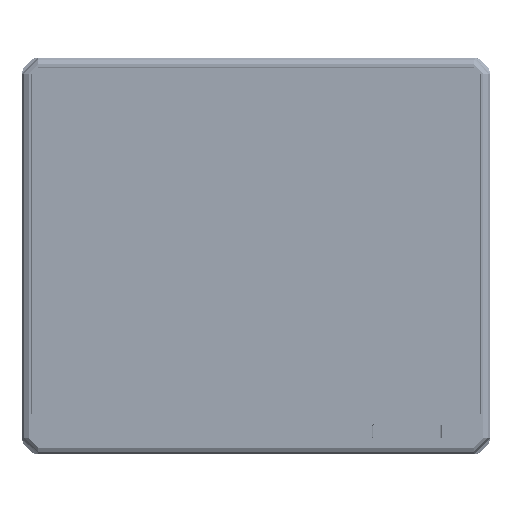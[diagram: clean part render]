
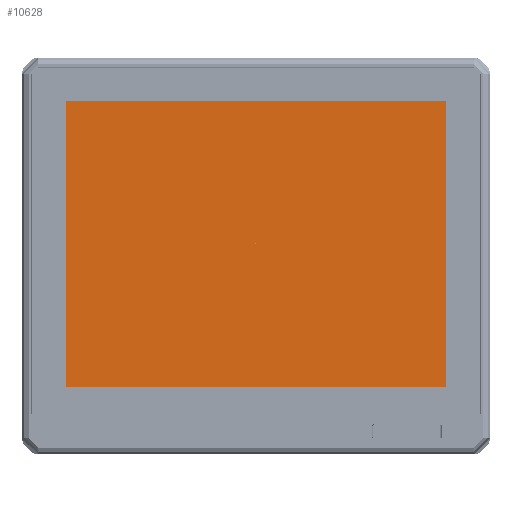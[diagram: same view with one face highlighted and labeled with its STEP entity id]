
A CAD part, top view. The second image highlights one B-rep face of the part: STEP entity #10628.
In plain terms, the highlighted planar face has unit normal (0, 0, 1).
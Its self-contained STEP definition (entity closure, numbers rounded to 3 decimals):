
#5488 = CARTESIAN_POINT ( 'NONE',  ( -193.294, -96.131, 9.95 ) ) ;
#10628 = ADVANCED_FACE ( 'NONE', ( #709348, #85550 ), #232254, .T. ) ;
#12177 = CARTESIAN_POINT ( 'NONE',  ( -69.294, -2.381, 9.95 ) ) ;
#35817 = VECTOR ( 'NONE', #516972, 1000. ) ;
#38887 = CARTESIAN_POINT ( 'NONE',  ( -193.294, 90.369, 9.95 ) ) ;
#85550 = FACE_BOUND ( 'NONE', #667589, .T. ) ;
#90976 = LINE ( 'NONE', #209388, #676836 ) ;
#105984 = CIRCLE ( 'NONE', #708736, 0.5 ) ;
#128425 = VECTOR ( 'NONE', #178071, 1000. ) ;
#136815 = VERTEX_POINT ( 'NONE', #12177 ) ;
#167982 = DIRECTION ( 'NONE',  ( 0., -1., 0. ) ) ;
#171434 = DIRECTION ( 'NONE',  ( 0., 0., 1. ) ) ;
#172978 = ORIENTED_EDGE ( 'NONE', *, *, #398359, .T. ) ;
#173470 = CARTESIAN_POINT ( 'NONE',  ( -69.294, -3.381, 9.95 ) ) ;
#175601 = DIRECTION ( 'NONE',  ( 0., 0., 1. ) ) ;
#178071 = DIRECTION ( 'NONE',  ( 1., 0., 0. ) ) ;
#179961 = DIRECTION ( 'NONE',  ( 0., -1., 0. ) ) ;
#186194 = CIRCLE ( 'NONE', #783991, 0.5 ) ;
#209388 = CARTESIAN_POINT ( 'NONE',  ( 54.706, 90.369, 9.95 ) ) ;
#215471 = LINE ( 'NONE', #38887, #35817 ) ;
#232254 = PLANE ( 'NONE',  #675256 ) ;
#236475 = DIRECTION ( 'NONE',  ( 0., -1., 0. ) ) ;
#242191 = EDGE_CURVE ( 'NONE', #317612, #541690, #648340, .T. ) ;
#299390 = EDGE_CURVE ( 'NONE', #308933, #136815, #186194, .T. ) ;
#308933 = VERTEX_POINT ( 'NONE', #173470 ) ;
#317612 = VERTEX_POINT ( 'NONE', #5488 ) ;
#329325 = ORIENTED_EDGE ( 'NONE', *, *, #584281, .F. ) ;
#336110 = DIRECTION ( 'NONE',  ( 0., 1., 0. ) ) ;
#346677 = EDGE_CURVE ( 'NONE', #405416, #384126, #215471, .T. ) ;
#365551 = CARTESIAN_POINT ( 'NONE',  ( -193.294, -96.131, 9.95 ) ) ;
#384126 = VERTEX_POINT ( 'NONE', #484819 ) ;
#398359 = EDGE_CURVE ( 'NONE', #384126, #317612, #676339, .T. ) ;
#405416 = VERTEX_POINT ( 'NONE', #499715 ) ;
#422334 = CARTESIAN_POINT ( 'NONE',  ( 54.706, -96.131, 9.95 ) ) ;
#482144 = ORIENTED_EDGE ( 'NONE', *, *, #242191, .T. ) ;
#484819 = CARTESIAN_POINT ( 'NONE',  ( -193.294, 90.369, 9.95 ) ) ;
#499715 = CARTESIAN_POINT ( 'NONE',  ( 54.706, 90.369, 9.95 ) ) ;
#516972 = DIRECTION ( 'NONE',  ( -1., 0., 0. ) ) ;
#535844 = DIRECTION ( 'NONE',  ( 0., -1., 0. ) ) ;
#537449 = CARTESIAN_POINT ( 'NONE',  ( -69.294, -2.881, 9.95 ) ) ;
#541690 = VERTEX_POINT ( 'NONE', #422334 ) ;
#541788 = CARTESIAN_POINT ( 'NONE',  ( -69.294, -2.881, 9.95 ) ) ;
#549648 = DIRECTION ( 'NONE',  ( 0., 0., 1. ) ) ;
#583684 = ORIENTED_EDGE ( 'NONE', *, *, #299390, .F. ) ;
#584281 = EDGE_CURVE ( 'NONE', #136815, #308933, #105984, .T. ) ;
#595816 = CARTESIAN_POINT ( 'NONE',  ( -193.294, 90.369, 9.95 ) ) ;
#610978 = ORIENTED_EDGE ( 'NONE', *, *, #692726, .T. ) ;
#648340 = LINE ( 'NONE', #365551, #128425 ) ;
#657419 = VECTOR ( 'NONE', #167982, 1000. ) ;
#667589 = EDGE_LOOP ( 'NONE', ( #329325, #583684 ) ) ;
#675256 = AXIS2_PLACEMENT_3D ( 'NONE', #773798, #171434, #535844 ) ;
#676339 = LINE ( 'NONE', #595816, #657419 ) ;
#676836 = VECTOR ( 'NONE', #336110, 1000. ) ;
#692726 = EDGE_CURVE ( 'NONE', #541690, #405416, #90976, .T. ) ;
#708736 = AXIS2_PLACEMENT_3D ( 'NONE', #537449, #175601, #236475 ) ;
#709348 = FACE_OUTER_BOUND ( 'NONE', #779758, .T. ) ;
#750694 = ORIENTED_EDGE ( 'NONE', *, *, #346677, .T. ) ;
#773798 = CARTESIAN_POINT ( 'NONE',  ( -211.794, -113.881, 9.95 ) ) ;
#779758 = EDGE_LOOP ( 'NONE', ( #172978, #482144, #610978, #750694 ) ) ;
#783991 = AXIS2_PLACEMENT_3D ( 'NONE', #541788, #549648, #179961 ) ;
